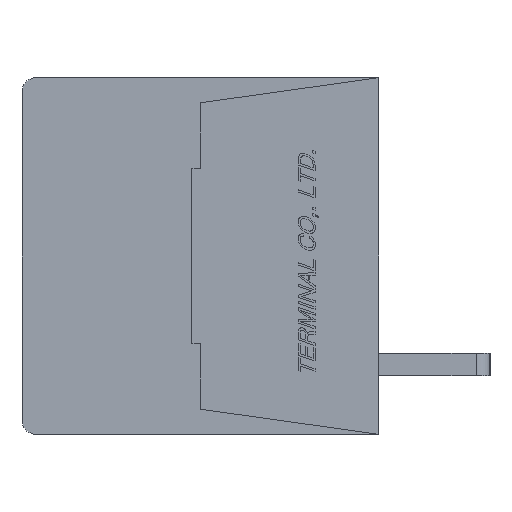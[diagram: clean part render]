
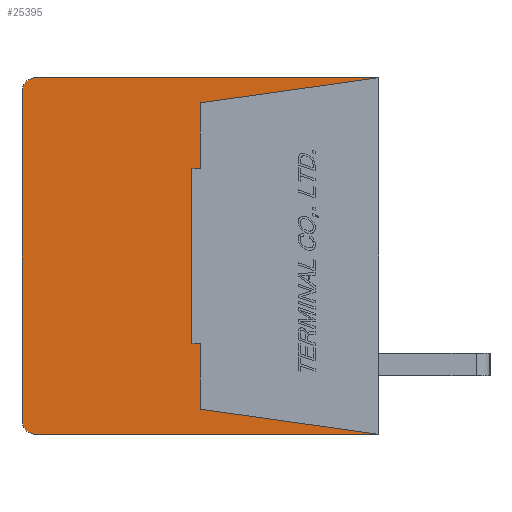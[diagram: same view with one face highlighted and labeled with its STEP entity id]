
A CAD part, left-side view. The second image highlights one B-rep face of the part: STEP entity #25395.
In plain terms, the highlighted planar face has unit normal (-1, 0, 0).
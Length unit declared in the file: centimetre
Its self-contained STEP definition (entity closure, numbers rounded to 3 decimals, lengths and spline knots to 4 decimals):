
#1334=CIRCLE('',#43317,0.05);
#1335=CIRCLE('',#43320,0.05);
#2463=VERTEX_POINT('',#35737);
#2464=VERTEX_POINT('',#35739);
#2465=VERTEX_POINT('',#35743);
#2466=VERTEX_POINT('',#35747);
#2467=VERTEX_POINT('',#35751);
#2468=VERTEX_POINT('',#35755);
#2469=VERTEX_POINT('',#35758);
#2470=VERTEX_POINT('',#35760);
#2471=VERTEX_POINT('',#35762);
#2472=VERTEX_POINT('',#35764);
#2473=VERTEX_POINT('',#35766);
#2474=VERTEX_POINT('',#35768);
#5107=VECTOR('',#29443,1.);
#5111=VECTOR('',#29452,1.);
#5114=VECTOR('',#29460,1.);
#5115=VECTOR('',#29461,1.);
#5116=VECTOR('',#29462,1.);
#5117=VECTOR('',#29463,1.);
#5118=VECTOR('',#29464,1.);
#5119=VECTOR('',#29465,1.);
#5120=VECTOR('',#29466,1.);
#5121=VECTOR('',#29467,1.);
#8097=LINE('',#35738,#5107);
#8101=LINE('',#35748,#5111);
#8104=LINE('',#35756,#5114);
#8105=LINE('',#35757,#5115);
#8106=LINE('',#35759,#5116);
#8107=LINE('',#35761,#5117);
#8108=LINE('',#35763,#5118);
#8109=LINE('',#35765,#5119);
#8110=LINE('',#35767,#5120);
#8111=LINE('',#35769,#5121);
#11479=EDGE_CURVE('',#2464,#2463,#8097,.T.);
#11482=EDGE_CURVE('',#2465,#2463,#1334,.T.);
#11484=EDGE_CURVE('',#2465,#2466,#8101,.T.);
#11486=EDGE_CURVE('',#2467,#2466,#1335,.T.);
#11488=EDGE_CURVE('',#2467,#2468,#8104,.T.);
#11489=EDGE_CURVE('',#2469,#2464,#8105,.T.);
#11490=EDGE_CURVE('',#2468,#2470,#8106,.T.);
#11491=EDGE_CURVE('',#2470,#2471,#8107,.T.);
#11492=EDGE_CURVE('',#2471,#2472,#8108,.T.);
#11493=EDGE_CURVE('',#2472,#2473,#8109,.T.);
#11494=EDGE_CURVE('',#2473,#2474,#8110,.T.);
#11495=EDGE_CURVE('',#2474,#2469,#8111,.T.);
#16675=ORIENTED_EDGE('',*,*,#11489,.T.);
#16676=ORIENTED_EDGE('',*,*,#11479,.T.);
#16677=ORIENTED_EDGE('',*,*,#11482,.F.);
#16678=ORIENTED_EDGE('',*,*,#11484,.T.);
#16679=ORIENTED_EDGE('',*,*,#11486,.F.);
#16680=ORIENTED_EDGE('',*,*,#11488,.T.);
#16681=ORIENTED_EDGE('',*,*,#11490,.T.);
#16682=ORIENTED_EDGE('',*,*,#11491,.T.);
#16683=ORIENTED_EDGE('',*,*,#11492,.T.);
#16684=ORIENTED_EDGE('',*,*,#11493,.T.);
#16685=ORIENTED_EDGE('',*,*,#11494,.T.);
#16686=ORIENTED_EDGE('',*,*,#11495,.T.);
#22151=EDGE_LOOP('',(#16675,#16676,#16677,#16678,#16679,#16680,#16681,#16682,
#16683,#16684,#16685,#16686));
#23809=FACE_BOUND('',#22151,.T.);
#25395=ADVANCED_FACE('',(#23809),#26736,.F.);
#26736=PLANE('',#43314);
#29329=DIRECTION('',(1.,0.,0.));
#29443=DIRECTION('',(0.,1.,0.));
#29448=DIRECTION('',(1.,0.,0.));
#29449=DIRECTION('',(0.,0.,-0.05));
#29452=DIRECTION('',(0.,0.,-1.));
#29456=DIRECTION('',(1.,0.,0.));
#29457=DIRECTION('',(0.,0.,-0.05));
#29460=DIRECTION('',(0.,-1.,0.));
#29461=DIRECTION('',(0.,-0.99,0.139));
#29462=DIRECTION('',(0.,0.99,0.139));
#29463=DIRECTION('',(0.,0.,1.));
#29464=DIRECTION('',(0.,1.,0.));
#29465=DIRECTION('',(0.,0.,1.));
#29466=DIRECTION('',(0.,-1.,0.));
#29467=DIRECTION('',(0.,0.,1.));
#35304=CARTESIAN_POINT('',(-0.889,0.6345,0.));
#35737=CARTESIAN_POINT('',(-0.889,1.23,0.64));
#35738=CARTESIAN_POINT('',(-0.889,0.,0.64));
#35739=CARTESIAN_POINT('',(-0.889,0.,0.64));
#35743=CARTESIAN_POINT('',(-0.889,1.28,0.59));
#35744=CARTESIAN_POINT('',(-0.889,1.23,0.59));
#35747=CARTESIAN_POINT('',(-0.889,1.28,-0.59));
#35748=CARTESIAN_POINT('',(-0.889,1.28,0.59));
#35751=CARTESIAN_POINT('',(-0.889,1.23,-0.64));
#35752=CARTESIAN_POINT('',(-0.889,1.23,-0.59));
#35755=CARTESIAN_POINT('',(-0.889,0.,-0.64));
#35756=CARTESIAN_POINT('',(-0.889,1.23,-0.64));
#35757=CARTESIAN_POINT('',(-0.889,0.64,0.55));
#35758=CARTESIAN_POINT('',(-0.889,0.64,0.55));
#35759=CARTESIAN_POINT('',(-0.889,0.,-0.64));
#35760=CARTESIAN_POINT('',(-0.889,0.64,-0.55));
#35761=CARTESIAN_POINT('',(-0.889,0.64,-0.55));
#35762=CARTESIAN_POINT('',(-0.889,0.64,-0.315));
#35763=CARTESIAN_POINT('',(-0.889,0.64,-0.315));
#35764=CARTESIAN_POINT('',(-0.889,0.67,-0.315));
#35765=CARTESIAN_POINT('',(-0.889,0.67,-0.315));
#35766=CARTESIAN_POINT('',(-0.889,0.67,0.315));
#35767=CARTESIAN_POINT('',(-0.889,0.67,0.315));
#35768=CARTESIAN_POINT('',(-0.889,0.64,0.315));
#35769=CARTESIAN_POINT('',(-0.889,0.64,0.315));
#43314=AXIS2_PLACEMENT_3D('',#35304,#29329,$);
#43317=AXIS2_PLACEMENT_3D('',#35744,#29448,#29449);
#43320=AXIS2_PLACEMENT_3D('',#35752,#29456,#29457);
